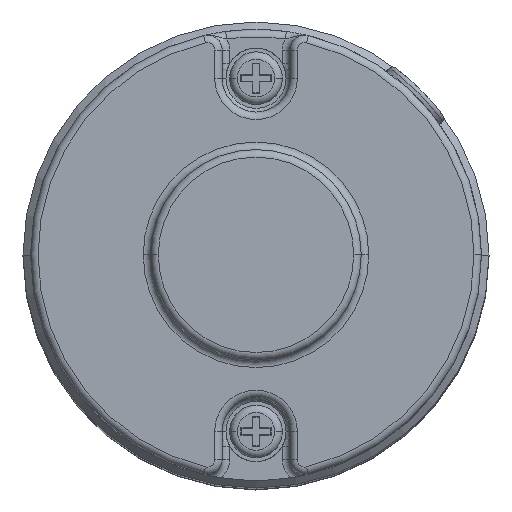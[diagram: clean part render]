
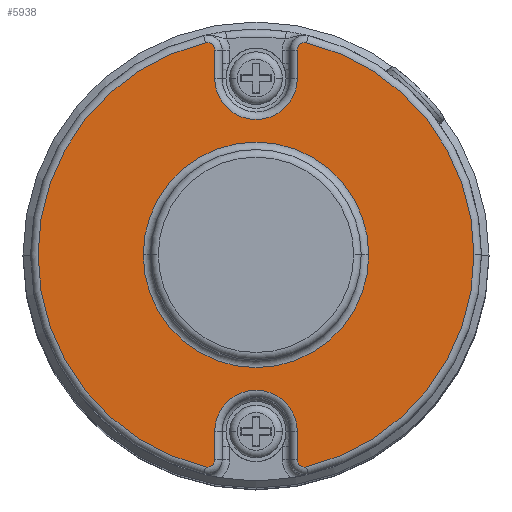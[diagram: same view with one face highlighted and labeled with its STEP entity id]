
A CAD part, top view. The second image highlights one B-rep face of the part: STEP entity #5938.
In plain terms, the highlighted planar face has unit normal (0, 0, 1).
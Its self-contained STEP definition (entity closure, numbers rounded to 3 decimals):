
#73 = ORIENTED_EDGE ( 'NONE', *, *, #5697, .T. ) ;
#79 = CARTESIAN_POINT ( 'NONE',  ( 0., 0., 20.5 ) ) ;
#125 = DIRECTION ( 'NONE',  ( 0., -1., 0. ) ) ;
#160 = CARTESIAN_POINT ( 'NONE',  ( 6.732, 28.208, 20.5 ) ) ;
#198 = EDGE_CURVE ( 'NONE', #7656, #7074, #1758, .T. ) ;
#229 = AXIS2_PLACEMENT_3D ( 'NONE', #4971, #7489, #4351 ) ;
#240 = EDGE_CURVE ( 'NONE', #3223, #3139, #3086, .T. ) ;
#341 = EDGE_CURVE ( 'NONE', #5539, #7607, #7448, .T. ) ;
#537 = PLANE ( 'NONE',  #229 ) ;
#571 = CARTESIAN_POINT ( 'NONE',  ( 0., 0., 20.5 ) ) ;
#578 = ORIENTED_EDGE ( 'NONE', *, *, #240, .T. ) ;
#626 = CARTESIAN_POINT ( 'NONE',  ( -5.5, -23.5, 20.5 ) ) ;
#681 = VERTEX_POINT ( 'NONE', #6113 ) ;
#698 = AXIS2_PLACEMENT_3D ( 'NONE', #2762, #5210, #5293 ) ;
#739 = CARTESIAN_POINT ( 'NONE',  ( 15., 0., 20.5 ) ) ;
#742 = CARTESIAN_POINT ( 'NONE',  ( 5.5, -23.5, 20.5 ) ) ;
#904 = CARTESIAN_POINT ( 'NONE',  ( 5.5, 23.5, 20.5 ) ) ;
#1014 = EDGE_CURVE ( 'NONE', #2253, #2328, #7317, .T. ) ;
#1122 = EDGE_CURVE ( 'NONE', #3613, #5536, #1800, .T. ) ;
#1132 = EDGE_CURVE ( 'NONE', #7200, #5253, #6321, .T. ) ;
#1269 = EDGE_CURVE ( 'NONE', #681, #2253, #4849, .T. ) ;
#1397 = AXIS2_PLACEMENT_3D ( 'NONE', #1882, #8136, #5672 ) ;
#1421 = VECTOR ( 'NONE', #1560, 1000. ) ;
#1476 = DIRECTION ( 'NONE',  ( 0., 0., -1. ) ) ;
#1509 = EDGE_CURVE ( 'NONE', #1938, #6535, #8195, .T. ) ;
#1510 = AXIS2_PLACEMENT_3D ( 'NONE', #1909, #4437, #6395 ) ;
#1560 = DIRECTION ( 'NONE',  ( 0., -1., 0. ) ) ;
#1700 = LINE ( 'NONE', #626, #5254 ) ;
#1758 = CIRCLE ( 'NONE', #698, 1. ) ;
#1799 = ORIENTED_EDGE ( 'NONE', *, *, #3242, .T. ) ;
#1800 = CIRCLE ( 'NONE', #4057, 15. ) ;
#1817 = FACE_BOUND ( 'NONE', #7216, .T. ) ;
#1882 = CARTESIAN_POINT ( 'NONE',  ( 6.5, -27.235, 20.5 ) ) ;
#1909 = CARTESIAN_POINT ( 'NONE',  ( 0., 0., 20.5 ) ) ;
#1938 = VERTEX_POINT ( 'NONE', #5117 ) ;
#1969 = CARTESIAN_POINT ( 'NONE',  ( 0., 0., 20.5 ) ) ;
#2101 = DIRECTION ( 'NONE',  ( 0., 0., -1. ) ) ;
#2102 = DIRECTION ( 'NONE',  ( 0., 0., 1. ) ) ;
#2103 = EDGE_LOOP ( 'NONE', ( #7167, #6569, #6962, #1799, #3991, #73, #5993, #3076, #4589, #6419, #578, #3646, #4738 ) ) ;
#2253 = VERTEX_POINT ( 'NONE', #742 ) ;
#2287 = CARTESIAN_POINT ( 'NONE',  ( 29., 0., 20.5 ) ) ;
#2309 = DIRECTION ( 'NONE',  ( 1., 0., 0. ) ) ;
#2312 = LINE ( 'NONE', #904, #1421 ) ;
#2328 = VERTEX_POINT ( 'NONE', #3209 ) ;
#2569 = ORIENTED_EDGE ( 'NONE', *, *, #2979, .T. ) ;
#2762 = CARTESIAN_POINT ( 'NONE',  ( -6.5, 27.235, 20.5 ) ) ;
#2794 = DIRECTION ( 'NONE',  ( 0., 1., 0. ) ) ;
#2925 = CARTESIAN_POINT ( 'NONE',  ( 6.5, 27.235, 20.5 ) ) ;
#2979 = EDGE_CURVE ( 'NONE', #5536, #3613, #5221, .T. ) ;
#3040 = EDGE_CURVE ( 'NONE', #7074, #3223, #4688, .T. ) ;
#3054 = DIRECTION ( 'NONE',  ( 0., 0., 1. ) ) ;
#3076 = ORIENTED_EDGE ( 'NONE', *, *, #7481, .T. ) ;
#3086 = CIRCLE ( 'NONE', #6133, 1. ) ;
#3139 = VERTEX_POINT ( 'NONE', #7827 ) ;
#3209 = CARTESIAN_POINT ( 'NONE',  ( 5.5, -27.235, 20.5 ) ) ;
#3223 = VERTEX_POINT ( 'NONE', #8192 ) ;
#3242 = EDGE_CURVE ( 'NONE', #5253, #5539, #8131, .T. ) ;
#3265 = VECTOR ( 'NONE', #125, 1000. ) ;
#3410 = LINE ( 'NONE', #7025, #5298 ) ;
#3613 = VERTEX_POINT ( 'NONE', #3944 ) ;
#3646 = ORIENTED_EDGE ( 'NONE', *, *, #5427, .T. ) ;
#3944 = CARTESIAN_POINT ( 'NONE',  ( -15., 0., 20.5 ) ) ;
#3991 = ORIENTED_EDGE ( 'NONE', *, *, #341, .T. ) ;
#4057 = AXIS2_PLACEMENT_3D ( 'NONE', #7410, #5640, #6716 ) ;
#4164 = AXIS2_PLACEMENT_3D ( 'NONE', #1969, #7993, #7369 ) ;
#4167 = DIRECTION ( 'NONE',  ( 1., 0., 0. ) ) ;
#4221 = CARTESIAN_POINT ( 'NONE',  ( 0., -23.5, 20.5 ) ) ;
#4293 = CARTESIAN_POINT ( 'NONE',  ( -5.5, 23.5, 20.5 ) ) ;
#4351 = DIRECTION ( 'NONE',  ( 1., 0., 0. ) ) ;
#4434 = CARTESIAN_POINT ( 'NONE',  ( -6.732, 28.208, 20.5 ) ) ;
#4437 = DIRECTION ( 'NONE',  ( 0., 0., 1. ) ) ;
#4589 = ORIENTED_EDGE ( 'NONE', *, *, #198, .T. ) ;
#4688 = CIRCLE ( 'NONE', #1510, 29. ) ;
#4738 = ORIENTED_EDGE ( 'NONE', *, *, #1269, .T. ) ;
#4849 = CIRCLE ( 'NONE', #5918, 5.5 ) ;
#4971 = CARTESIAN_POINT ( 'NONE',  ( 0., 0., 20.5 ) ) ;
#5014 = EDGE_CURVE ( 'NONE', #2328, #7200, #5921, .T. ) ;
#5117 = CARTESIAN_POINT ( 'NONE',  ( 5.5, 23.5, 20.5 ) ) ;
#5210 = DIRECTION ( 'NONE',  ( 0., 0., 1. ) ) ;
#5221 = CIRCLE ( 'NONE', #7466, 15. ) ;
#5245 = DIRECTION ( 'NONE',  ( 1., 0., 0. ) ) ;
#5253 = VERTEX_POINT ( 'NONE', #2287 ) ;
#5254 = VECTOR ( 'NONE', #8127, 1000. ) ;
#5293 = DIRECTION ( 'NONE',  ( 1., 0., 0. ) ) ;
#5298 = VECTOR ( 'NONE', #2794, 1000. ) ;
#5341 = DIRECTION ( 'NONE',  ( 0., 0., -1. ) ) ;
#5427 = EDGE_CURVE ( 'NONE', #3139, #681, #1700, .T. ) ;
#5536 = VERTEX_POINT ( 'NONE', #739 ) ;
#5539 = VERTEX_POINT ( 'NONE', #160 ) ;
#5640 = DIRECTION ( 'NONE',  ( 0., 0., -1. ) ) ;
#5672 = DIRECTION ( 'NONE',  ( 1., 0., 0. ) ) ;
#5697 = EDGE_CURVE ( 'NONE', #7607, #1938, #2312, .T. ) ;
#5918 = AXIS2_PLACEMENT_3D ( 'NONE', #4221, #5341, #6758 ) ;
#5921 = CIRCLE ( 'NONE', #1397, 1. ) ;
#5938 = ADVANCED_FACE ( 'NONE', ( #6840, #1817 ), #537, .T. ) ;
#5993 = ORIENTED_EDGE ( 'NONE', *, *, #1509, .T. ) ;
#5994 = CARTESIAN_POINT ( 'NONE',  ( -5.5, 27.235, 20.5 ) ) ;
#6113 = CARTESIAN_POINT ( 'NONE',  ( -5.5, -23.5, 20.5 ) ) ;
#6133 = AXIS2_PLACEMENT_3D ( 'NONE', #7818, #2102, #7151 ) ;
#6230 = AXIS2_PLACEMENT_3D ( 'NONE', #7650, #2101, #5245 ) ;
#6321 = CIRCLE ( 'NONE', #7228, 29. ) ;
#6395 = DIRECTION ( 'NONE',  ( 1., 0., 0. ) ) ;
#6419 = ORIENTED_EDGE ( 'NONE', *, *, #3040, .T. ) ;
#6535 = VERTEX_POINT ( 'NONE', #4293 ) ;
#6569 = ORIENTED_EDGE ( 'NONE', *, *, #5014, .T. ) ;
#6594 = CARTESIAN_POINT ( 'NONE',  ( 6.732, -28.208, 20.5 ) ) ;
#6716 = DIRECTION ( 'NONE',  ( 1., 0., 0. ) ) ;
#6758 = DIRECTION ( 'NONE',  ( 1., 0., 0. ) ) ;
#6781 = CARTESIAN_POINT ( 'NONE',  ( 5.5, 27.235, 20.5 ) ) ;
#6794 = ORIENTED_EDGE ( 'NONE', *, *, #1122, .T. ) ;
#6840 = FACE_OUTER_BOUND ( 'NONE', #2103, .T. ) ;
#6932 = DIRECTION ( 'NONE',  ( 1., 0., 0. ) ) ;
#6962 = ORIENTED_EDGE ( 'NONE', *, *, #1132, .T. ) ;
#7025 = CARTESIAN_POINT ( 'NONE',  ( -5.5, 27.235, 20.5 ) ) ;
#7046 = CARTESIAN_POINT ( 'NONE',  ( 5.5, -27.235, 20.5 ) ) ;
#7074 = VERTEX_POINT ( 'NONE', #4434 ) ;
#7151 = DIRECTION ( 'NONE',  ( 1., 0., 0. ) ) ;
#7167 = ORIENTED_EDGE ( 'NONE', *, *, #1014, .T. ) ;
#7200 = VERTEX_POINT ( 'NONE', #6594 ) ;
#7216 = EDGE_LOOP ( 'NONE', ( #2569, #6794 ) ) ;
#7228 = AXIS2_PLACEMENT_3D ( 'NONE', #571, #7450, #2309 ) ;
#7310 = AXIS2_PLACEMENT_3D ( 'NONE', #2925, #3054, #4167 ) ;
#7317 = LINE ( 'NONE', #7046, #3265 ) ;
#7369 = DIRECTION ( 'NONE',  ( 1., 0., 0. ) ) ;
#7410 = CARTESIAN_POINT ( 'NONE',  ( 0., 0., 20.5 ) ) ;
#7448 = CIRCLE ( 'NONE', #7310, 1. ) ;
#7450 = DIRECTION ( 'NONE',  ( 0., 0., 1. ) ) ;
#7466 = AXIS2_PLACEMENT_3D ( 'NONE', #79, #1476, #6932 ) ;
#7481 = EDGE_CURVE ( 'NONE', #6535, #7656, #3410, .T. ) ;
#7489 = DIRECTION ( 'NONE',  ( 0., 0., 1. ) ) ;
#7607 = VERTEX_POINT ( 'NONE', #6781 ) ;
#7650 = CARTESIAN_POINT ( 'NONE',  ( 0., 23.5, 20.5 ) ) ;
#7656 = VERTEX_POINT ( 'NONE', #5994 ) ;
#7818 = CARTESIAN_POINT ( 'NONE',  ( -6.5, -27.235, 20.5 ) ) ;
#7827 = CARTESIAN_POINT ( 'NONE',  ( -5.5, -27.235, 20.5 ) ) ;
#7993 = DIRECTION ( 'NONE',  ( 0., 0., 1. ) ) ;
#8127 = DIRECTION ( 'NONE',  ( 0., 1., 0. ) ) ;
#8131 = CIRCLE ( 'NONE', #4164, 29. ) ;
#8136 = DIRECTION ( 'NONE',  ( 0., 0., 1. ) ) ;
#8192 = CARTESIAN_POINT ( 'NONE',  ( -6.732, -28.208, 20.5 ) ) ;
#8195 = CIRCLE ( 'NONE', #6230, 5.5 ) ;
